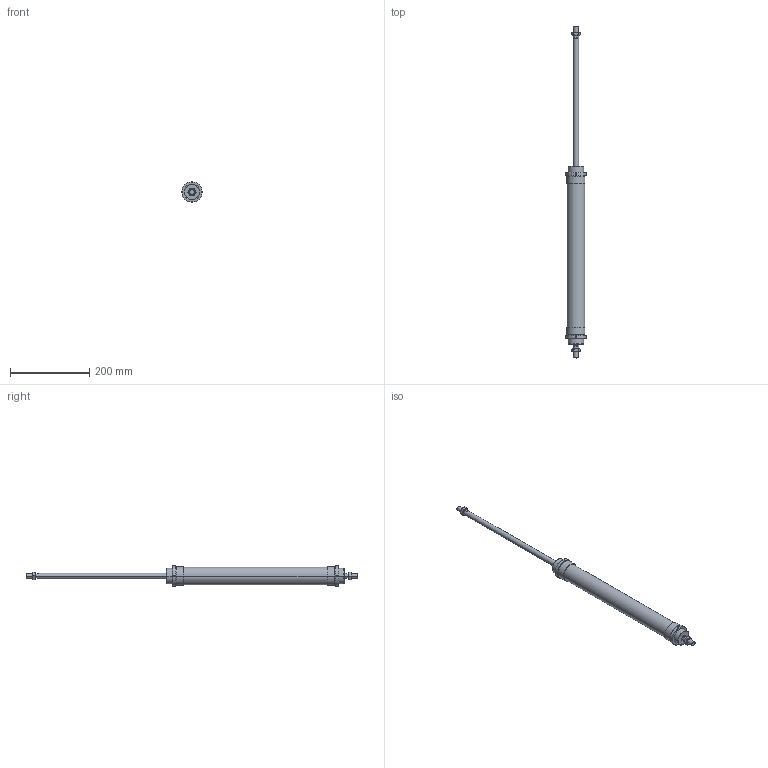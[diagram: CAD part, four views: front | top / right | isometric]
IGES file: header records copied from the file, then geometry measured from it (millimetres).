
Global section: file name: No Iges File Name specified; native system: AutoDesk Inventor R6.0; preprocessor: AutoDesk Inventor Iges Exporter R6.0; author: No Author specified; organization: No Organization specified; date: 20030403.072859; units: millimetre
Bounding box: 51.76 x 839 x 51.76 mm (x, y, z)
Volume: 753385.1 mm3; surface area: 133974.1 mm2
Topology: 6 solids, 6 shells, 182 faces, 424 edges, 264 vertices
Faces by surface type: plane 66, cone 52, bspline 30, cylinder 28, revolution 6
